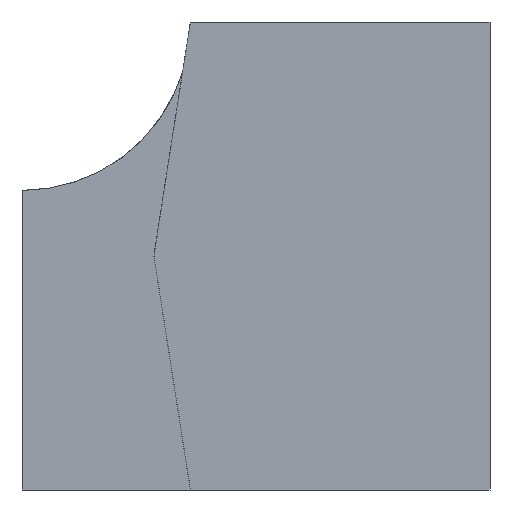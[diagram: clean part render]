
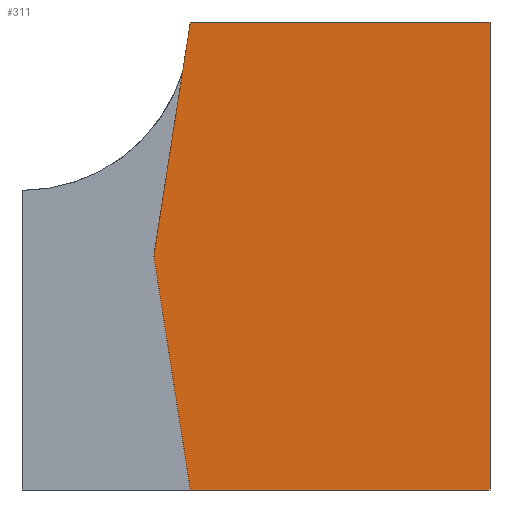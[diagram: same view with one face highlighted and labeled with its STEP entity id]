
A CAD part, front view. The second image highlights one B-rep face of the part: STEP entity #311.
In plain terms, the highlighted planar face has unit normal (0, -1, 0).
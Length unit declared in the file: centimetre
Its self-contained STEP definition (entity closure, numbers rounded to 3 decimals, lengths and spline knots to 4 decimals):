
#2 = EDGE_LOOP ( 'NONE', ( #28, #147, #391, #37, #288 ) ) ;
#9 = VERTEX_POINT ( 'NONE', #344 ) ;
#13 = LINE ( 'NONE', #23, #430 ) ;
#21 = LINE ( 'NONE', #161, #373 ) ;
#23 = CARTESIAN_POINT ( 'NONE',  ( 1000., 0., 1000. ) ) ;
#26 = EDGE_CURVE ( 'NONE', #119, #9, #13, .T. ) ;
#28 = ORIENTED_EDGE ( 'NONE', *, *, #124, .F. ) ;
#30 = VECTOR ( 'NONE', #62, 100. ) ;
#32 = VERTEX_POINT ( 'NONE', #401 ) ;
#37 = ORIENTED_EDGE ( 'NONE', *, *, #170, .T. ) ;
#39 = VECTOR ( 'NONE', #404, 100. ) ;
#52 = DIRECTION ( 'NONE',  ( 1., 0., 0. ) ) ;
#62 = DIRECTION ( 'NONE',  ( 0.154, 0., 0.988 ) ) ;
#93 = EDGE_CURVE ( 'NONE', #389, #32, #21, .T. ) ;
#99 = CARTESIAN_POINT ( 'NONE',  ( 359.851, 0., 1000. ) ) ;
#119 = VERTEX_POINT ( 'NONE', #155 ) ;
#124 = EDGE_CURVE ( 'NONE', #186, #119, #337, .T. ) ;
#126 = FACE_OUTER_BOUND ( 'NONE', #2, .T. ) ;
#147 = ORIENTED_EDGE ( 'NONE', *, *, #380, .F. ) ;
#155 = CARTESIAN_POINT ( 'NONE',  ( 1000., 0., 1000. ) ) ;
#161 = CARTESIAN_POINT ( 'NONE',  ( 281.8086, 0., 500. ) ) ;
#166 = DIRECTION ( 'NONE',  ( 0., 0., -1. ) ) ;
#170 = EDGE_CURVE ( 'NONE', #389, #9, #197, .T. ) ;
#186 = VERTEX_POINT ( 'NONE', #415 ) ;
#197 = LINE ( 'NONE', #372, #39 ) ;
#198 = DIRECTION ( 'NONE',  ( 0., 0., 1. ) ) ;
#261 = CARTESIAN_POINT ( 'NONE',  ( 0., 0., 1000. ) ) ;
#272 = CARTESIAN_POINT ( 'NONE',  ( 0., 0., 1000. ) ) ;
#276 = LINE ( 'NONE', #99, #30 ) ;
#282 = CARTESIAN_POINT ( 'NONE',  ( 359.851, 0., 0. ) ) ;
#287 = VECTOR ( 'NONE', #52, 100. ) ;
#288 = ORIENTED_EDGE ( 'NONE', *, *, #26, .F. ) ;
#311 = ADVANCED_FACE ( 'NONE', ( #126 ), #447, .F. ) ;
#337 = LINE ( 'NONE', #261, #287 ) ;
#344 = CARTESIAN_POINT ( 'NONE',  ( 1000., 0., 0. ) ) ;
#372 = CARTESIAN_POINT ( 'NONE',  ( 0., 0., 0. ) ) ;
#373 = VECTOR ( 'NONE', #377, 100. ) ;
#377 = DIRECTION ( 'NONE',  ( -0.154, 0., 0.988 ) ) ;
#380 = EDGE_CURVE ( 'NONE', #32, #186, #276, .T. ) ;
#383 = AXIS2_PLACEMENT_3D ( 'NONE', #272, #416, #198 ) ;
#389 = VERTEX_POINT ( 'NONE', #282 ) ;
#391 = ORIENTED_EDGE ( 'NONE', *, *, #93, .F. ) ;
#401 = CARTESIAN_POINT ( 'NONE',  ( 281.8086, 0., 500. ) ) ;
#404 = DIRECTION ( 'NONE',  ( 1., 0., 0. ) ) ;
#415 = CARTESIAN_POINT ( 'NONE',  ( 359.851, 0., 1000. ) ) ;
#416 = DIRECTION ( 'NONE',  ( 0., 1., 0. ) ) ;
#430 = VECTOR ( 'NONE', #166, 100. ) ;
#447 = PLANE ( 'NONE',  #383 ) ;
